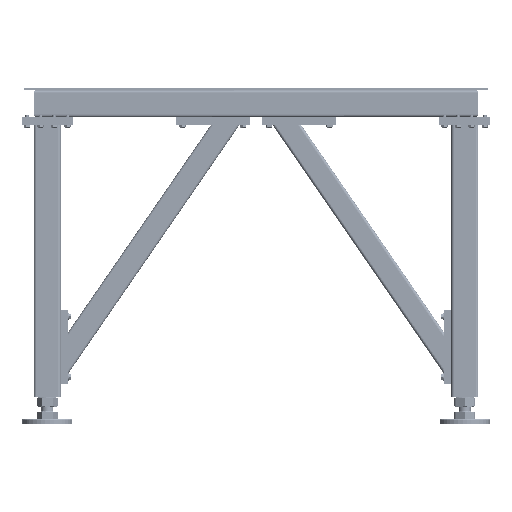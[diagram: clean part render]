
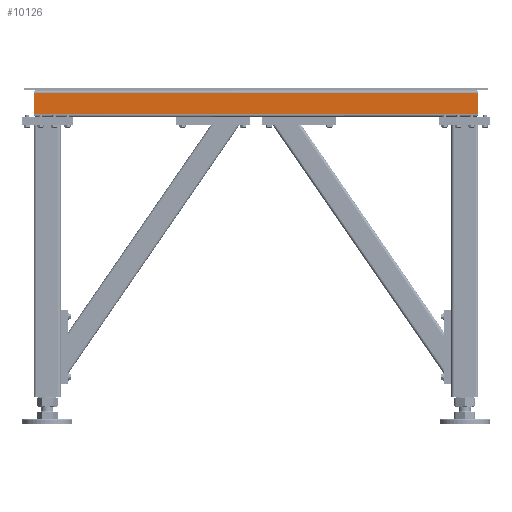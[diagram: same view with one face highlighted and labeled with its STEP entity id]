
A CAD part, left-side view. The second image highlights one B-rep face of the part: STEP entity #10126.
In plain terms, the highlighted planar face has unit normal (-1, 0, 0).
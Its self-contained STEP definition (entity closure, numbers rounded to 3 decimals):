
#1078 = LINE ( 'NONE', #28131, #4538 ) ;
#3386 = EDGE_LOOP ( 'NONE', ( #6470, #23964, #46633, #20313 ) ) ;
#3418 = EDGE_CURVE ( 'NONE', #19683, #28150, #27369, .T. ) ;
#3847 = DIRECTION ( 'NONE',  ( 0., 0., -1. ) ) ;
#4475 = CARTESIAN_POINT ( 'NONE',  ( -136117.539, 28177.545, 32. ) ) ;
#4538 = VECTOR ( 'NONE', #6838, 1000. ) ;
#5819 = CARTESIAN_POINT ( 'NONE',  ( -136117.539, 28137.545, -32. ) ) ;
#5941 = DIRECTION ( 'NONE',  ( 0., 1., 0. ) ) ;
#6470 = ORIENTED_EDGE ( 'NONE', *, *, #10015, .F. ) ;
#6565 = EDGE_CURVE ( 'NONE', #28150, #9375, #1078, .T. ) ;
#6838 = DIRECTION ( 'NONE',  ( 0., 0., 1. ) ) ;
#7183 = CARTESIAN_POINT ( 'NONE',  ( -136117.539, 28137.545, 32. ) ) ;
#7703 = DIRECTION ( 'NONE',  ( 1., 0., 0. ) ) ;
#8006 = PLANE ( 'NONE',  #12976 ) ;
#8275 = CARTESIAN_POINT ( 'NONE',  ( -136117.539, 29457.545, -32. ) ) ;
#9375 = VERTEX_POINT ( 'NONE', #9811 ) ;
#9811 = CARTESIAN_POINT ( 'NONE',  ( -136117.539, 29457.545, 32. ) ) ;
#10015 = EDGE_CURVE ( 'NONE', #31146, #19683, #44827, .T. ) ;
#10126 = ADVANCED_FACE ( 'NONE', ( #12579 ), #8006, .F. ) ;
#12579 = FACE_OUTER_BOUND ( 'NONE', #3386, .T. ) ;
#12631 = CARTESIAN_POINT ( 'NONE',  ( -136117.539, 28177.545, 32. ) ) ;
#12976 = AXIS2_PLACEMENT_3D ( 'NONE', #4475, #7703, #3847 ) ;
#13707 = VECTOR ( 'NONE', #44005, 1000. ) ;
#15556 = EDGE_CURVE ( 'NONE', #31146, #9375, #33218, .T. ) ;
#19683 = VERTEX_POINT ( 'NONE', #5819 ) ;
#20313 = ORIENTED_EDGE ( 'NONE', *, *, #3418, .F. ) ;
#23964 = ORIENTED_EDGE ( 'NONE', *, *, #15556, .T. ) ;
#26311 = VECTOR ( 'NONE', #38246, 1000. ) ;
#27369 = LINE ( 'NONE', #28176, #31444 ) ;
#28131 = CARTESIAN_POINT ( 'NONE',  ( -136117.539, 29457.545, 32. ) ) ;
#28150 = VERTEX_POINT ( 'NONE', #8275 ) ;
#28176 = CARTESIAN_POINT ( 'NONE',  ( -136117.539, 28177.545, -32. ) ) ;
#31146 = VERTEX_POINT ( 'NONE', #7183 ) ;
#31444 = VECTOR ( 'NONE', #5941, 1000. ) ;
#33218 = LINE ( 'NONE', #12631, #26311 ) ;
#36285 = CARTESIAN_POINT ( 'NONE',  ( -136117.539, 28137.545, 32. ) ) ;
#38246 = DIRECTION ( 'NONE',  ( 0., 1., 0. ) ) ;
#44005 = DIRECTION ( 'NONE',  ( 0., 0., -1. ) ) ;
#44827 = LINE ( 'NONE', #36285, #13707 ) ;
#46633 = ORIENTED_EDGE ( 'NONE', *, *, #6565, .F. ) ;
